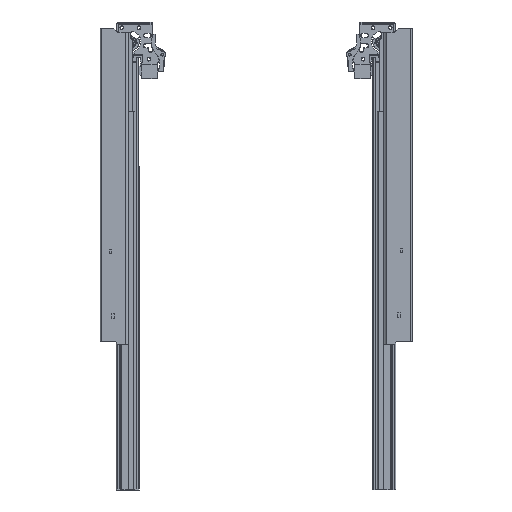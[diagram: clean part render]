
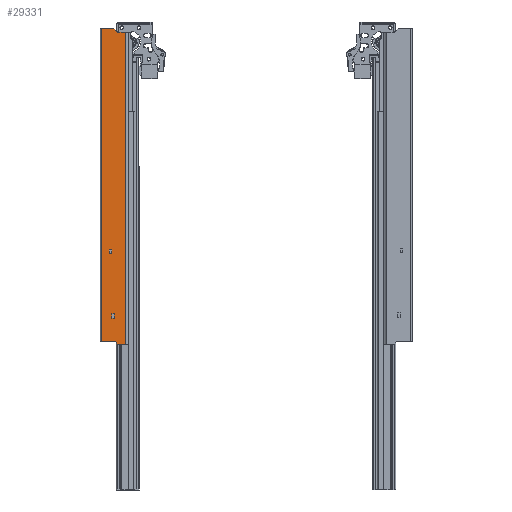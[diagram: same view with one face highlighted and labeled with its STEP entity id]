
A CAD part, front view. The second image highlights one B-rep face of the part: STEP entity #29331.
In plain terms, the highlighted planar face has unit normal (0, -1, 0).
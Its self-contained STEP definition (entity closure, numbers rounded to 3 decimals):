
#807=FACE_BOUND('',#5992,.T.);
#808=FACE_BOUND('',#5993,.T.);
#1943=CIRCLE('',#31253,2.);
#1944=CIRCLE('',#31254,2.);
#4113=FACE_OUTER_BOUND('',#5991,.T.);
#5991=EDGE_LOOP('',(#18739,#18740,#18741,#18742,#18743,#18744,#18745,#18746,
#18747,#18748));
#5992=EDGE_LOOP('',(#18749,#18750,#18751,#18752));
#5993=EDGE_LOOP('',(#18753,#18754,#18755,#18756));
#8181=LINE('',#45300,#10101);
#8185=LINE('',#45308,#10105);
#8188=LINE('',#45314,#10108);
#8191=LINE('',#45319,#10111);
#8193=LINE('',#45325,#10113);
#8197=LINE('',#45333,#10117);
#8200=LINE('',#45339,#10120);
#8203=LINE('',#45344,#10123);
#8205=LINE('',#45350,#10125);
#8220=LINE('',#45398,#10140);
#8228=LINE('',#45418,#10148);
#8229=LINE('',#45422,#10149);
#8230=LINE('',#45424,#10150);
#8231=LINE('',#45426,#10151);
#8232=LINE('',#45430,#10152);
#8233=LINE('',#45433,#10153);
#10101=VECTOR('',#35278,5.);
#10105=VECTOR('',#35284,3.);
#10108=VECTOR('',#35289,5.);
#10111=VECTOR('',#35294,3.);
#10113=VECTOR('',#35300,6.);
#10117=VECTOR('',#35306,3.5);
#10120=VECTOR('',#35311,6.);
#10123=VECTOR('',#35316,3.5);
#10125=VECTOR('',#35322,4.243);
#10140=VECTOR('',#35357,18.);
#10148=VECTOR('',#35377,402.);
#10149=VECTOR('',#35382,9.5);
#10150=VECTOR('',#35383,400.);
#10151=VECTOR('',#35384,9.672);
#10152=VECTOR('',#35387,5.414);
#10153=VECTOR('',#35390,14.172);
#12021=VERTEX_POINT('',#45298);
#12022=VERTEX_POINT('',#45299);
#12025=VERTEX_POINT('',#45307);
#12027=VERTEX_POINT('',#45313);
#12029=VERTEX_POINT('',#45323);
#12030=VERTEX_POINT('',#45324);
#12033=VERTEX_POINT('',#45332);
#12035=VERTEX_POINT('',#45338);
#12037=VERTEX_POINT('',#45348);
#12038=VERTEX_POINT('',#45349);
#12061=VERTEX_POINT('',#45397);
#12067=VERTEX_POINT('',#45417);
#12068=VERTEX_POINT('',#45421);
#12069=VERTEX_POINT('',#45423);
#12070=VERTEX_POINT('',#45425);
#12071=VERTEX_POINT('',#45427);
#12072=VERTEX_POINT('',#45429);
#12073=VERTEX_POINT('',#45431);
#14489=EDGE_CURVE('',#12021,#12022,#8181,.T.);
#14493=EDGE_CURVE('',#12022,#12025,#8185,.T.);
#14496=EDGE_CURVE('',#12025,#12027,#8188,.T.);
#14499=EDGE_CURVE('',#12027,#12021,#8191,.T.);
#14501=EDGE_CURVE('',#12029,#12030,#8193,.T.);
#14505=EDGE_CURVE('',#12030,#12033,#8197,.T.);
#14508=EDGE_CURVE('',#12033,#12035,#8200,.T.);
#14511=EDGE_CURVE('',#12035,#12029,#8203,.T.);
#14513=EDGE_CURVE('',#12037,#12038,#8205,.T.);
#14537=EDGE_CURVE('',#12061,#12037,#8220,.T.);
#14547=EDGE_CURVE('',#12067,#12061,#8228,.T.);
#14549=EDGE_CURVE('',#12068,#12038,#8229,.T.);
#14550=EDGE_CURVE('',#12069,#12068,#8230,.T.);
#14551=EDGE_CURVE('',#12069,#12070,#8231,.T.);
#14552=EDGE_CURVE('',#12071,#12070,#1943,.T.);
#14553=EDGE_CURVE('',#12071,#12072,#8232,.T.);
#14554=EDGE_CURVE('',#12073,#12072,#1944,.T.);
#14555=EDGE_CURVE('',#12067,#12073,#8233,.T.);
#18739=ORIENTED_EDGE('',*,*,#14537,.T.);
#18740=ORIENTED_EDGE('',*,*,#14513,.T.);
#18741=ORIENTED_EDGE('',*,*,#14549,.F.);
#18742=ORIENTED_EDGE('',*,*,#14550,.F.);
#18743=ORIENTED_EDGE('',*,*,#14551,.T.);
#18744=ORIENTED_EDGE('',*,*,#14552,.F.);
#18745=ORIENTED_EDGE('',*,*,#14553,.T.);
#18746=ORIENTED_EDGE('',*,*,#14554,.F.);
#18747=ORIENTED_EDGE('',*,*,#14555,.F.);
#18748=ORIENTED_EDGE('',*,*,#14547,.T.);
#18749=ORIENTED_EDGE('',*,*,#14489,.T.);
#18750=ORIENTED_EDGE('',*,*,#14493,.T.);
#18751=ORIENTED_EDGE('',*,*,#14496,.T.);
#18752=ORIENTED_EDGE('',*,*,#14499,.T.);
#18753=ORIENTED_EDGE('',*,*,#14501,.T.);
#18754=ORIENTED_EDGE('',*,*,#14505,.T.);
#18755=ORIENTED_EDGE('',*,*,#14508,.T.);
#18756=ORIENTED_EDGE('',*,*,#14511,.T.);
#27001=PLANE('',#31252);
#29331=ADVANCED_FACE('',(#4113,#807,#808),#27001,.T.);
#31252=AXIS2_PLACEMENT_3D('',#45420,#35380,#35381);
#31253=AXIS2_PLACEMENT_3D('',#45428,#35385,#35386);
#31254=AXIS2_PLACEMENT_3D('',#45432,#35388,#35389);
#35278=DIRECTION('',(0.,0.,1.));
#35284=DIRECTION('',(1.,0.,0.));
#35289=DIRECTION('',(0.,0.,-1.));
#35294=DIRECTION('',(-1.,0.,0.));
#35300=DIRECTION('',(0.,0.,1.));
#35306=DIRECTION('',(1.,0.,0.));
#35311=DIRECTION('',(0.,0.,-1.));
#35316=DIRECTION('',(-1.,0.,0.));
#35322=DIRECTION('',(0.707,0.,-0.707));
#35357=DIRECTION('',(1.,0.,0.));
#35377=DIRECTION('',(0.,0.,-1.));
#35380=DIRECTION('center_axis',(0.,-1.,0.));
#35381=DIRECTION('ref_axis',(-1.,0.,0.));
#35382=DIRECTION('',(-1.,0.,0.));
#35383=DIRECTION('',(0.,0.,-1.));
#35384=DIRECTION('',(-1.,0.,0.));
#35385=DIRECTION('center_axis',(0.,-1.,0.));
#35386=DIRECTION('ref_axis',(-0.383,0.,-0.924));
#35387=DIRECTION('',(-0.707,0.,0.707));
#35388=DIRECTION('center_axis',(0.,1.,0.));
#35389=DIRECTION('ref_axis',(0.383,0.,0.924));
#35390=DIRECTION('',(1.,0.,0.));
#45298=CARTESIAN_POINT('',(12.,0.,-289.));
#45299=CARTESIAN_POINT('',(12.,0.,-284.));
#45300=CARTESIAN_POINT('',(12.,0.,-142.));
#45307=CARTESIAN_POINT('',(15.,0.,-284.));
#45308=CARTESIAN_POINT('',(23.75,0.,-284.));
#45313=CARTESIAN_POINT('',(15.,0.,-289.));
#45314=CARTESIAN_POINT('',(15.,0.,-144.5));
#45319=CARTESIAN_POINT('',(22.25,0.,-289.));
#45323=CARTESIAN_POINT('',(15.,0.,-372.));
#45324=CARTESIAN_POINT('',(15.,0.,-366.));
#45325=CARTESIAN_POINT('',(15.,0.,-183.));
#45332=CARTESIAN_POINT('',(18.5,0.,-366.));
#45333=CARTESIAN_POINT('',(25.5,0.,-366.));
#45338=CARTESIAN_POINT('',(18.5,0.,-372.));
#45339=CARTESIAN_POINT('',(18.5,0.,-186.));
#45344=CARTESIAN_POINT('',(23.75,0.,-372.));
#45348=CARTESIAN_POINT('',(20.,0.,-402.));
#45349=CARTESIAN_POINT('',(23.,0.,-405.));
#45350=CARTESIAN_POINT('',(-77.375,0.,-304.625));
#45397=CARTESIAN_POINT('',(2.,0.,-402.));
#45398=CARTESIAN_POINT('',(16.25,0.,-402.));
#45417=CARTESIAN_POINT('',(2.,0.,0.));
#45418=CARTESIAN_POINT('',(2.,0.,0.));
#45420=CARTESIAN_POINT('Origin',(32.5,0.,0.));
#45421=CARTESIAN_POINT('',(32.5,0.,-405.));
#45422=CARTESIAN_POINT('',(2.,0.,-405.));
#45423=CARTESIAN_POINT('',(32.5,0.,-5.));
#45424=CARTESIAN_POINT('',(32.5,0.,0.));
#45425=CARTESIAN_POINT('',(22.828,0.,-5.));
#45426=CARTESIAN_POINT('',(35.75,0.,-5.));
#45427=CARTESIAN_POINT('',(21.414,0.,-4.414));
#45428=CARTESIAN_POINT('Origin',(22.828,0.,
-3.));
#45429=CARTESIAN_POINT('',(17.586,0.,-0.586));
#45430=CARTESIAN_POINT('',(23.375,0.,-6.375));
#45431=CARTESIAN_POINT('',(16.172,0.,0.));
#45432=CARTESIAN_POINT('Origin',(16.172,0.,
-2.));
#45433=CARTESIAN_POINT('',(2.,0.,0.));
